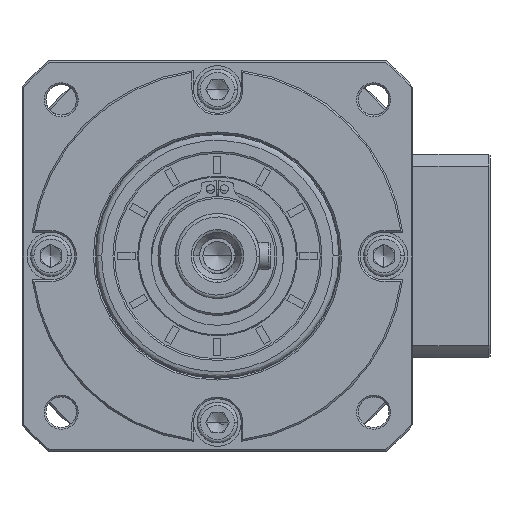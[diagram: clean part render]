
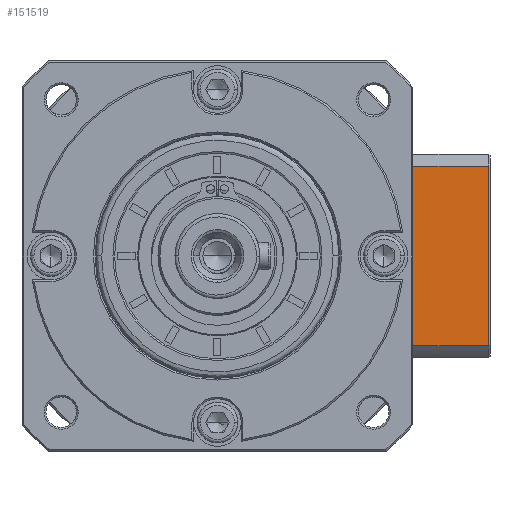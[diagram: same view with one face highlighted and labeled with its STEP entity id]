
A CAD part, left-side view. The second image highlights one B-rep face of the part: STEP entity #151519.
In plain terms, the highlighted planar face has unit normal (-1, 0, 0).
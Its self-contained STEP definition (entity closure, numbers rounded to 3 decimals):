
#424 = VERTEX_POINT ( 'NONE', #41637 ) ;
#11688 = CARTESIAN_POINT ( 'NONE',  ( -91.773, -36.099, -29.389 ) ) ;
#15623 = DIRECTION ( 'NONE',  ( 0., 1., 0. ) ) ;
#19197 = LINE ( 'NONE', #21635, #126213 ) ;
#20245 = CARTESIAN_POINT ( 'NONE',  ( -91.773, -33.622, -72.592 ) ) ;
#21635 = CARTESIAN_POINT ( 'NONE',  ( -91.773, -32.872, -26.65 ) ) ;
#24486 = DIRECTION ( 'NONE',  ( 1., 0., 0. ) ) ;
#24958 = CARTESIAN_POINT ( 'NONE',  ( -91.773, -32.872, -35.08 ) ) ;
#25021 = CARTESIAN_POINT ( 'NONE',  ( -91.773, -32.872, -71.135 ) ) ;
#25583 = ORIENTED_EDGE ( 'NONE', *, *, #46885, .F. ) ;
#25733 = CARTESIAN_POINT ( 'NONE',  ( -91.773, -33.62, -33.628 ) ) ;
#26033 = CARTESIAN_POINT ( 'NONE',  ( -91.773, -18.372, -35.08 ) ) ;
#28134 = VECTOR ( 'NONE', #15623, 1000. ) ;
#33938 = CARTESIAN_POINT ( 'NONE',  ( -91.773, -32.872, -35.08 ) ) ;
#37933 = PLANE ( 'NONE',  #74318 ) ;
#37994 = CARTESIAN_POINT ( 'NONE',  ( -91.773, -60.072, -26.65 ) ) ;
#39338 = LINE ( 'NONE', #33938, #113614 ) ;
#39939 = ORIENTED_EDGE ( 'NONE', *, *, #100146, .T. ) ;
#41637 = CARTESIAN_POINT ( 'NONE',  ( -91.773, -37.872, -26.65 ) ) ;
#45098 = ORIENTED_EDGE ( 'NONE', *, *, #128161, .T. ) ;
#46885 = EDGE_CURVE ( 'NONE', #161495, #180158, #91917, .T. ) ;
#49763 = DIRECTION ( 'NONE',  ( 0., -1., 0. ) ) ;
#53291 = ORIENTED_EDGE ( 'NONE', *, *, #177794, .F. ) ;
#54447 = DIRECTION ( 'NONE',  ( 0., 1., 0. ) ) ;
#58483 = B_SPLINE_CURVE_WITH_KNOTS ( 'NONE', 3,
 ( #160623, #20245, #146605, #76994, #174651, #91057 ),
 .UNSPECIFIED., .F., .F.,
 ( 4, 2, 4 ),
 ( 0.1, 0.104, 0.109 ),
 .UNSPECIFIED. ) ;
#60235 = VERTEX_POINT ( 'NONE', #37994 ) ;
#66330 = LINE ( 'NONE', #173622, #99114 ) ;
#66751 = LINE ( 'NONE', #145417, #99531 ) ;
#70656 = EDGE_CURVE ( 'NONE', #131419, #180158, #66751, .T. ) ;
#74318 = AXIS2_PLACEMENT_3D ( 'NONE', #108137, #24486, #122165 ) ;
#76994 = CARTESIAN_POINT ( 'NONE',  ( -91.773, -36.096, -76.823 ) ) ;
#85146 = B_SPLINE_CURVE_WITH_KNOTS ( 'NONE', 3,
 ( #136814, #150915, #11688, #109360, #25733, #123391 ),
 .UNSPECIFIED., .F., .F.,
 ( 4, 2, 4 ),
 ( 0.052, 0.057, 0.062 ),
 .UNSPECIFIED. ) ;
#85249 = CARTESIAN_POINT ( 'NONE',  ( -91.773, -32.872, -79.565 ) ) ;
#86169 = EDGE_CURVE ( 'NONE', #131419, #127249, #39338, .T. ) ;
#87534 = VECTOR ( 'NONE', #54447, 1000. ) ;
#89275 = CARTESIAN_POINT ( 'NONE',  ( -91.773, -60.072, -79.565 ) ) ;
#91057 = CARTESIAN_POINT ( 'NONE',  ( -91.773, -37.872, -79.565 ) ) ;
#91195 = EDGE_LOOP ( 'NONE', ( #53291, #45098, #107957, #99036, #127939, #146971, #25583, #39939 ) ) ;
#91917 = LINE ( 'NONE', #166147, #87534 ) ;
#99036 = ORIENTED_EDGE ( 'NONE', *, *, #138033, .T. ) ;
#99114 = VECTOR ( 'NONE', #104036, 1000. ) ;
#99531 = VECTOR ( 'NONE', #158846, 1000. ) ;
#99958 = FACE_OUTER_BOUND ( 'NONE', #91195, .T. ) ;
#100109 = VERTEX_POINT ( 'NONE', #89275 ) ;
#100146 = EDGE_CURVE ( 'NONE', #161495, #171515, #58483, .T. ) ;
#104036 = DIRECTION ( 'NONE',  ( 0., 0., 1. ) ) ;
#107957 = ORIENTED_EDGE ( 'NONE', *, *, #178091, .F. ) ;
#108137 = CARTESIAN_POINT ( 'NONE',  ( -91.773, -60.572, -83.108 ) ) ;
#109360 = CARTESIAN_POINT ( 'NONE',  ( -91.773, -34.423, -32.197 ) ) ;
#113614 = VECTOR ( 'NONE', #131555, 1000. ) ;
#119948 = LINE ( 'NONE', #85249, #28134 ) ;
#122165 = DIRECTION ( 'NONE',  ( 0., 1., 0. ) ) ;
#123391 = CARTESIAN_POINT ( 'NONE',  ( -91.773, -32.872, -35.08 ) ) ;
#126213 = VECTOR ( 'NONE', #49763, 1000. ) ;
#127249 = VERTEX_POINT ( 'NONE', #24958 ) ;
#127939 = ORIENTED_EDGE ( 'NONE', *, *, #86169, .F. ) ;
#128161 = EDGE_CURVE ( 'NONE', #100109, #60235, #66330, .T. ) ;
#131419 = VERTEX_POINT ( 'NONE', #26033 ) ;
#131555 = DIRECTION ( 'NONE',  ( 0., -1., 0. ) ) ;
#136814 = CARTESIAN_POINT ( 'NONE',  ( -91.773, -37.872, -26.65 ) ) ;
#138033 = EDGE_CURVE ( 'NONE', #424, #127249, #85146, .T. ) ;
#145417 = CARTESIAN_POINT ( 'NONE',  ( -91.773, -18.372, -83.108 ) ) ;
#146605 = CARTESIAN_POINT ( 'NONE',  ( -91.773, -34.422, -74.017 ) ) ;
#146726 = CARTESIAN_POINT ( 'NONE',  ( -91.773, -37.872, -79.565 ) ) ;
#146971 = ORIENTED_EDGE ( 'NONE', *, *, #70656, .T. ) ;
#150915 = CARTESIAN_POINT ( 'NONE',  ( -91.773, -36.972, -28.01 ) ) ;
#151519 = ADVANCED_FACE ( 'NONE', ( #99958 ), #37933, .F. ) ;
#158846 = DIRECTION ( 'NONE',  ( 0., 0., -1. ) ) ;
#160623 = CARTESIAN_POINT ( 'NONE',  ( -91.773, -32.872, -71.135 ) ) ;
#161495 = VERTEX_POINT ( 'NONE', #25021 ) ;
#166147 = CARTESIAN_POINT ( 'NONE',  ( -91.773, -32.872, -71.135 ) ) ;
#169288 = CARTESIAN_POINT ( 'NONE',  ( -91.773, -18.372, -71.135 ) ) ;
#171515 = VERTEX_POINT ( 'NONE', #146726 ) ;
#173622 = CARTESIAN_POINT ( 'NONE',  ( -91.773, -60.072, -83.108 ) ) ;
#174651 = CARTESIAN_POINT ( 'NONE',  ( -91.773, -36.97, -78.202 ) ) ;
#177794 = EDGE_CURVE ( 'NONE', #100109, #171515, #119948, .T. ) ;
#178091 = EDGE_CURVE ( 'NONE', #424, #60235, #19197, .T. ) ;
#180158 = VERTEX_POINT ( 'NONE', #169288 ) ;
